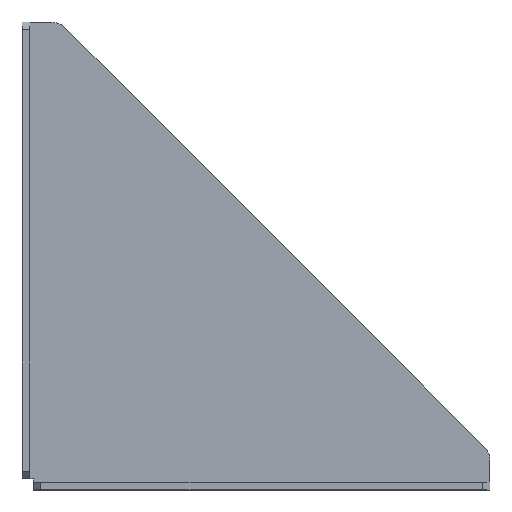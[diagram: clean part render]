
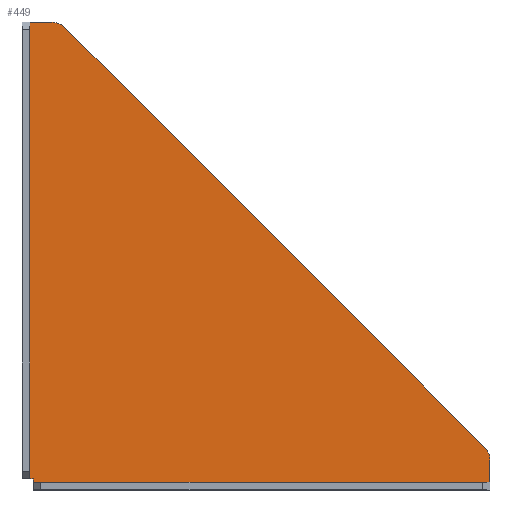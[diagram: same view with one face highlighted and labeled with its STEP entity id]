
A CAD part, top view. The second image highlights one B-rep face of the part: STEP entity #449.
In plain terms, the highlighted planar face has unit normal (0, 0, 1).
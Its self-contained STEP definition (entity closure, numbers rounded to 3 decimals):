
#6 = EDGE_CURVE ( 'NONE', #278, #338, #350, .T. ) ;
#24 = CARTESIAN_POINT ( 'NONE',  ( 3., 0., -8.5 ) ) ;
#29 = EDGE_CURVE ( 'NONE', #42, #450, #780, .T. ) ;
#42 = VERTEX_POINT ( 'NONE', #355 ) ;
#70 = ORIENTED_EDGE ( 'NONE', *, *, #282, .T. ) ;
#81 = DIRECTION ( 'NONE',  ( 0., -1., 0. ) ) ;
#110 = VECTOR ( 'NONE', #809, 1000. ) ;
#176 = ORIENTED_EDGE ( 'NONE', *, *, #736, .T. ) ;
#201 = LINE ( 'NONE', #438, #110 ) ;
#203 = VERTEX_POINT ( 'NONE', #406 ) ;
#204 = CARTESIAN_POINT ( 'NONE',  ( 10., 125., -8.5 ) ) ;
#217 = DIRECTION ( 'NONE',  ( -0.707, 0.707, 0. ) ) ;
#218 = VECTOR ( 'NONE', #81, 1000. ) ;
#228 = EDGE_CURVE ( 'NONE', #630, #278, #477, .T. ) ;
#231 = CARTESIAN_POINT ( 'NONE',  ( 123.536, 11.464, -8.5 ) ) ;
#241 = ORIENTED_EDGE ( 'NONE', *, *, #598, .T. ) ;
#256 = DIRECTION ( 'NONE',  ( 0., 0., 1. ) ) ;
#258 = CARTESIAN_POINT ( 'NONE',  ( 125., 2., -8.5 ) ) ;
#278 = VERTEX_POINT ( 'NONE', #410 ) ;
#282 = EDGE_CURVE ( 'NONE', #510, #910, #818, .T. ) ;
#293 = FACE_OUTER_BOUND ( 'NONE', #814, .T. ) ;
#294 = DIRECTION ( 'NONE',  ( 0., 0., 1. ) ) ;
#318 = AXIS2_PLACEMENT_3D ( 'NONE', #651, #294, #342 ) ;
#319 = CARTESIAN_POINT ( 'NONE',  ( 7.929, 125., -8.5 ) ) ;
#338 = VERTEX_POINT ( 'NONE', #849 ) ;
#342 = DIRECTION ( 'NONE',  ( -1., 0., 0. ) ) ;
#350 = LINE ( 'NONE', #879, #937 ) ;
#355 = CARTESIAN_POINT ( 'NONE',  ( 11.464, 123.536, -8.5 ) ) ;
#358 = LINE ( 'NONE', #204, #529 ) ;
#363 = ORIENTED_EDGE ( 'NONE', *, *, #373, .T. ) ;
#369 = CARTESIAN_POINT ( 'NONE',  ( 0., 0., -8.5 ) ) ;
#373 = EDGE_CURVE ( 'NONE', #910, #42, #358, .T. ) ;
#390 = CARTESIAN_POINT ( 'NONE',  ( 125., 2., -8.5 ) ) ;
#398 = CARTESIAN_POINT ( 'NONE',  ( 125., 7.929, -8.5 ) ) ;
#406 = CARTESIAN_POINT ( 'NONE',  ( 2., 125., -8.5 ) ) ;
#410 = CARTESIAN_POINT ( 'NONE',  ( 3., 3., -8.5 ) ) ;
#416 = CARTESIAN_POINT ( 'NONE',  ( 125., 10., -8.5 ) ) ;
#438 = CARTESIAN_POINT ( 'NONE',  ( 2., 125., -8.5 ) ) ;
#449 = ADVANCED_FACE ( 'NONE', ( #293 ), #882, .F. ) ;
#450 = VERTEX_POINT ( 'NONE', #319 ) ;
#455 = LINE ( 'NONE', #620, #218 ) ;
#464 = VECTOR ( 'NONE', #921, 1000. ) ;
#477 = LINE ( 'NONE', #24, #720 ) ;
#480 = CARTESIAN_POINT ( 'NONE',  ( 120., 7.929, -8.5 ) ) ;
#491 = LINE ( 'NONE', #416, #464 ) ;
#500 = LINE ( 'NONE', #258, #681 ) ;
#504 = VERTEX_POINT ( 'NONE', #390 ) ;
#510 = VERTEX_POINT ( 'NONE', #398 ) ;
#529 = VECTOR ( 'NONE', #217, 1000. ) ;
#548 = DIRECTION ( 'NONE',  ( 0., 1., 0. ) ) ;
#588 = ORIENTED_EDGE ( 'NONE', *, *, #896, .T. ) ;
#598 = EDGE_CURVE ( 'NONE', #630, #504, #500, .T. ) ;
#618 = AXIS2_PLACEMENT_3D ( 'NONE', #480, #256, #769 ) ;
#620 = CARTESIAN_POINT ( 'NONE',  ( 2., 2., -8.5 ) ) ;
#630 = VERTEX_POINT ( 'NONE', #938 ) ;
#651 = CARTESIAN_POINT ( 'NONE',  ( 7.929, 120., -8.5 ) ) ;
#681 = VECTOR ( 'NONE', #778, 1000. ) ;
#684 = EDGE_CURVE ( 'NONE', #504, #510, #491, .T. ) ;
#692 = DIRECTION ( 'NONE',  ( 0., 0., -1. ) ) ;
#695 = ORIENTED_EDGE ( 'NONE', *, *, #684, .T. ) ;
#720 = VECTOR ( 'NONE', #548, 1000. ) ;
#724 = DIRECTION ( 'NONE',  ( -1., 0., 0. ) ) ;
#736 = EDGE_CURVE ( 'NONE', #450, #203, #201, .T. ) ;
#769 = DIRECTION ( 'NONE',  ( -1., 0., 0. ) ) ;
#778 = DIRECTION ( 'NONE',  ( 1., 0., 0. ) ) ;
#780 = CIRCLE ( 'NONE', #318, 5. ) ;
#784 = ORIENTED_EDGE ( 'NONE', *, *, #6, .F. ) ;
#809 = DIRECTION ( 'NONE',  ( -1., 0., 0. ) ) ;
#813 = ORIENTED_EDGE ( 'NONE', *, *, #228, .F. ) ;
#814 = EDGE_LOOP ( 'NONE', ( #695, #70, #363, #939, #176, #588, #784, #813, #241 ) ) ;
#818 = CIRCLE ( 'NONE', #618, 5. ) ;
#849 = CARTESIAN_POINT ( 'NONE',  ( 2., 3., -8.5 ) ) ;
#879 = CARTESIAN_POINT ( 'NONE',  ( 0., 3., -8.5 ) ) ;
#882 = PLANE ( 'NONE',  #886 ) ;
#886 = AXIS2_PLACEMENT_3D ( 'NONE', #369, #692, #906 ) ;
#896 = EDGE_CURVE ( 'NONE', #203, #338, #455, .T. ) ;
#906 = DIRECTION ( 'NONE',  ( -1., 0., 0. ) ) ;
#910 = VERTEX_POINT ( 'NONE', #231 ) ;
#921 = DIRECTION ( 'NONE',  ( 0., 1., 0. ) ) ;
#937 = VECTOR ( 'NONE', #724, 1000. ) ;
#938 = CARTESIAN_POINT ( 'NONE',  ( 3., 2., -8.5 ) ) ;
#939 = ORIENTED_EDGE ( 'NONE', *, *, #29, .T. ) ;
